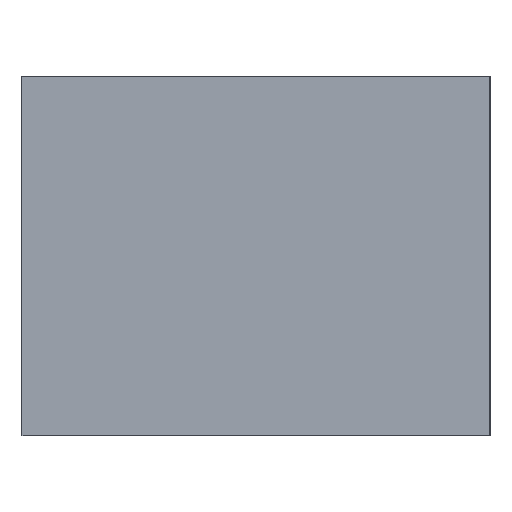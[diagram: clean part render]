
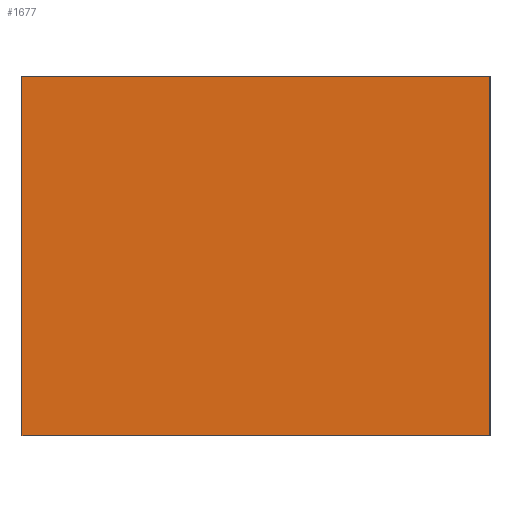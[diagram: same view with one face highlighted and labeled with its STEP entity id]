
A CAD part, left-side view. The second image highlights one B-rep face of the part: STEP entity #1677.
In plain terms, the highlighted planar face has unit normal (-1, 0, 0).
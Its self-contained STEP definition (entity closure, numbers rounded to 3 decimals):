
#667 = VERTEX_POINT( '', #1826 );
#949 = VERTEX_POINT( '', #2138 );
#1055 = VERTEX_POINT( '', #2253 );
#1273 = EDGE_CURVE( '', #1055, #1597, #2488, .T. );
#1327 = EDGE_CURVE( '', #667, #1055, #2545, .T. );
#1329 = EDGE_CURVE( '', #949, #1597, #2547, .T. );
#1373 = EDGE_CURVE( '', #667, #949, #2592, .T. );
#1597 = VERTEX_POINT( '', #2838 );
#1677 = ADVANCED_FACE( '', ( #2923 ), #2924, .T. );
#1826 = CARTESIAN_POINT( '', ( -12., 0., 10. ) );
#2138 = CARTESIAN_POINT( '', ( -12., -26., 10. ) );
#2253 = CARTESIAN_POINT( '', ( -12., 0., -10. ) );
#2488 = LINE( '', #3999, #4000 );
#2545 = LINE( '', #4076, #4077 );
#2547 = LINE( '', #4080, #4081 );
#2592 = LINE( '', #4156, #4157 );
#2838 = CARTESIAN_POINT( '', ( -12., -26., -10. ) );
#2923 = FACE_OUTER_BOUND( '', #4622, .T. );
#2924 = PLANE( '', #4623 );
#3999 = CARTESIAN_POINT( '', ( -12., 0., -10. ) );
#4000 = VECTOR( '', #5614, 1. );
#4076 = CARTESIAN_POINT( '', ( -12., 0., 10. ) );
#4077 = VECTOR( '', #5658, 1. );
#4080 = CARTESIAN_POINT( '', ( -12., -26., 10. ) );
#4081 = VECTOR( '', #5659, 1. );
#4156 = CARTESIAN_POINT( '', ( -12., 0., 10. ) );
#4157 = VECTOR( '', #5690, 1. );
#4622 = EDGE_LOOP( '', ( #6050, #6051, #6052, #6053 ) );
#4623 = AXIS2_PLACEMENT_3D( '', #6054, #6055, #6056 );
#5614 = DIRECTION( '', ( 0., -1., 0. ) );
#5658 = DIRECTION( '', ( 0., 0., -1. ) );
#5659 = DIRECTION( '', ( 0., 0., -1. ) );
#5690 = DIRECTION( '', ( 0., -1., 0. ) );
#6050 = ORIENTED_EDGE( '', *, *, #1273, .T. );
#6051 = ORIENTED_EDGE( '', *, *, #1329, .F. );
#6052 = ORIENTED_EDGE( '', *, *, #1373, .F. );
#6053 = ORIENTED_EDGE( '', *, *, #1327, .T. );
#6054 = CARTESIAN_POINT( '', ( -12., 0., 10. ) );
#6055 = DIRECTION( '', ( -1., 0., 0. ) );
#6056 = DIRECTION( '', ( 0., 1., 0. ) );
